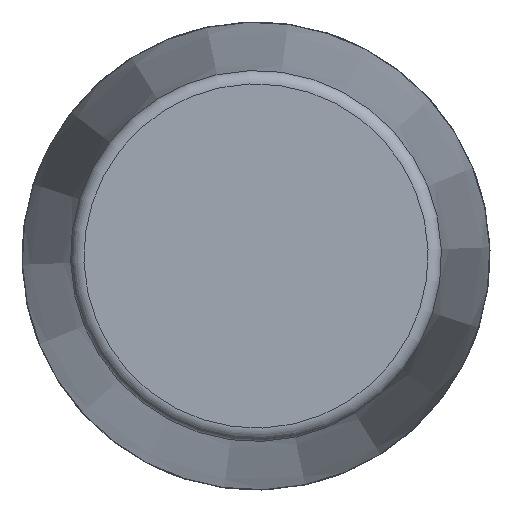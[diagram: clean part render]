
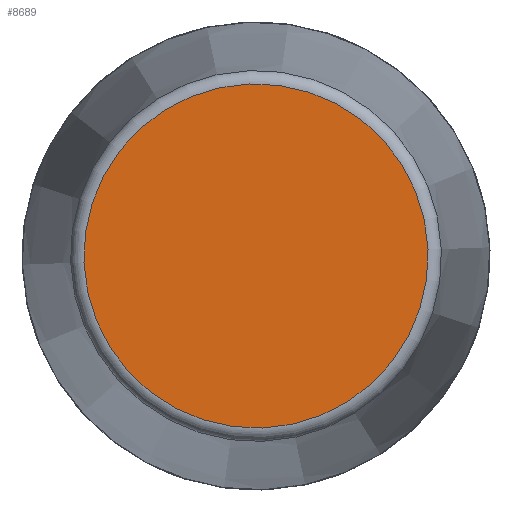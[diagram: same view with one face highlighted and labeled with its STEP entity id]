
A CAD part, front view. The second image highlights one B-rep face of the part: STEP entity #8689.
In plain terms, the highlighted planar face has unit normal (0, -1, 0) as drawn and (1, 0, 0) by its records, which use the part's own axes.
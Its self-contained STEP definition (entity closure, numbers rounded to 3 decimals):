
#2419=PLANE('',#9052);
#2996=FACE_OUTER_BOUND('',#3549,.T.);
#3549=EDGE_LOOP('',(#8181));
#3590=CIRCLE('',#9048,128.662);
#4440=VERTEX_POINT('',#16384);
#5690=EDGE_CURVE('',#4440,#4440,#3590,.T.);
#8181=ORIENTED_EDGE('',*,*,#5690,.F.);
#8689=ADVANCED_FACE('',(#2996),#2419,.T.);
#9048=AXIS2_PLACEMENT_3D('',#16385,#10367,#10368);
#9052=AXIS2_PLACEMENT_3D('',#16391,#10375,#10376);
#10367=DIRECTION('center_axis',(-1.,0.,0.));
#10368=DIRECTION('ref_axis',(0.,0.,
1.));
#10375=DIRECTION('center_axis',(1.,0.,0.));
#10376=DIRECTION('ref_axis',(0.,0.,-1.));
#16384=CARTESIAN_POINT('',(622.5,0.,-128.662));
#16385=CARTESIAN_POINT('Origin',(622.5,0.,0.));
#16391=CARTESIAN_POINT('Origin',(622.5,0.,0.));
